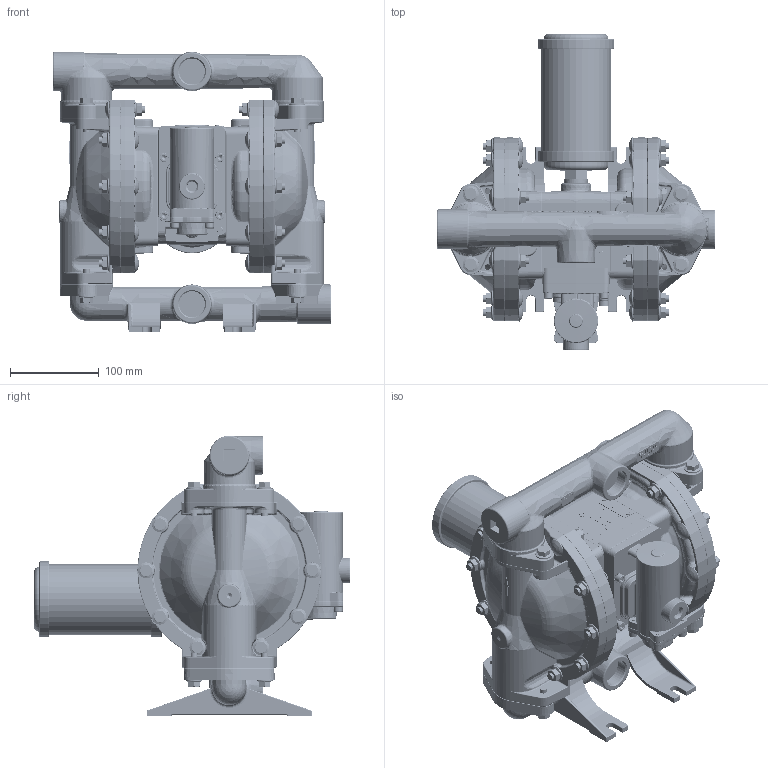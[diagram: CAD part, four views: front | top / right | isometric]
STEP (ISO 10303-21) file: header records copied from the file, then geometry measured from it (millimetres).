
FILE_DESCRIPTION(/* description */ (''),/* implementation_level */ '2;1');
FILE_NAME(/* name */ 'PD10X-X-X-X_12',/* time_stamp */ '2008-10-01T09:06:52-04:00',/* author */ (''),/* organization */ (''),/* preprocessor_version */ 'ST-DEVELOPER v9',/* originating_system */ 'UGS - NX 4.0',/* authorisation */ '');
FILE_SCHEMA (('AUTOMOTIVE_DESIGN { 1 0 10303 214 1 1 1 1 }'));
Length unit declared in the file: inch
Products named in the file (1): szeeA57E24i4
Bounding box: 313.16 x 356.32 x 315.9 mm (x, y, z)
Volume: 7185537.6 mm3; surface area: 517271.4 mm2
Topology: 1 solids, 1 shells, 10032 faces, 25821 edges, 15916 vertices
Faces by surface type: plane 5264, bspline 1734, cylinder 1322, torus 640, cone 513, extrusion 302, sphere 257
Full cylindrical faces by diameter (mm): 0.18 x2, 4.75 x2, 5.994 x1, 6.35 x8, 6.792 x2, 7.76 x8, 7.794 x20, 10 x8, 11.887 x1, 17.45 x1, 17.9 x20, 18 x8, 20.65 x20, 26.67 x1, 28.6 x1, 29.06 x2, 44.45 x2, 49.2 x1, 57.15 x2, 59.487 x2, 73.025 x1, 79.375 x1, 85.725 x2
Entity records: 345380 total; most frequent: CARTESIAN_POINT 118569, ORIENTED_EDGE 50128, DIRECTION 42456, EDGE_CURVE 25064, VERTEX_POINT 15709, AXIS2_PLACEMENT_3D 14202, VECTOR 14052, LINE 13750
